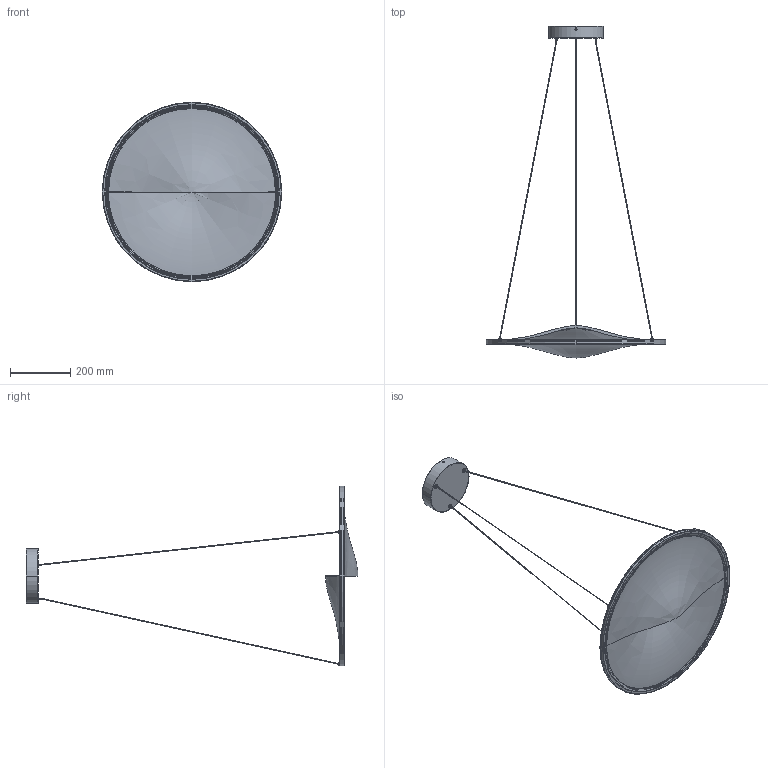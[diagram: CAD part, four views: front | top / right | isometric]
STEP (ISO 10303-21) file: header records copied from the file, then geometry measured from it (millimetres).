
FILE_DESCRIPTION (( 'STEP AP214' ), '1' );
FILE_NAME ('FS-340-595D.STEP', '2024-08-27T13:04:07', ( 'Microsoft' ), ( 'Microsoft' ), 'SwSTEP 2.0', 'SolidWorks 2020', '' );
FILE_SCHEMA (( 'AUTOMOTIVE_DESIGN' ));
Length unit declared in the file: millimetre
Products named in the file (8): FS-340-595型材圈; FS-340-595遠倛沺え; FS-340-595D; FS-340-595萇盄; M6坶盄諉芛; FS-340-595絳嫖啣; 322-510裂唅揤攫; M10扥坫肣璃
Assembly tree (14 placements, depth 2):
  FS-340-595D
    FS-340-595型材圈
    FS-340-595絳嫖啣  x2
    FS-340-595遠倛沺え
    322-510裂唅揤攫
    M10扥坫肣璃  x3
    M6坶盄諉芛  x3
    FS-340-595萇盄  x3
Bounding box: 595 x 1100.1 x 595 mm (x, y, z)
Volume: 243643 mm3; surface area: 914633.2 mm2
Topology: 12 solids, 16 shells, 406 faces, 1008 edges, 644 vertices
Faces by surface type: cylinder 204, plane 65, torus 62, cone 56, bspline 19
Entity records: 10372 total; most frequent: CARTESIAN_POINT 4150, DIRECTION 1269, ORIENTED_EDGE 1176, EDGE_CURVE 590, AXIS2_PLACEMENT_3D 556, VERTEX_POINT 376, CIRCLE 310, EDGE_LOOP 287
